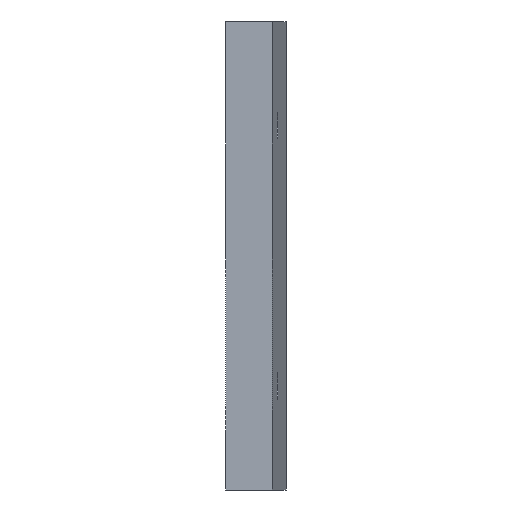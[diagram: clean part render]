
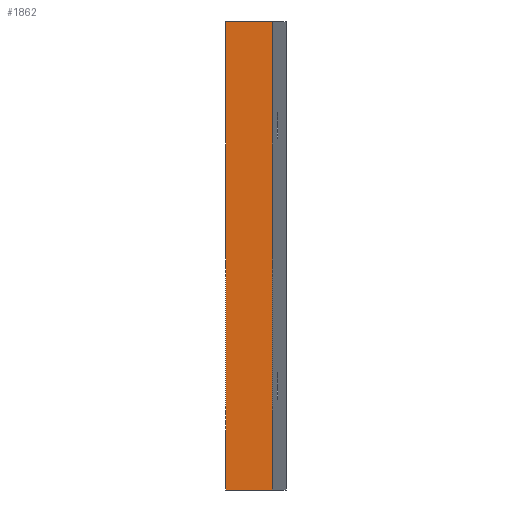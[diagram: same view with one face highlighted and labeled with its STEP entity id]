
A CAD part, left-side view. The second image highlights one B-rep face of the part: STEP entity #1862.
In plain terms, the highlighted planar face has unit normal (-1, 0, 0).
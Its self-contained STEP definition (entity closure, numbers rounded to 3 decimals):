
#49 = AXIS2_PLACEMENT_3D ( 'NONE', #664, #1381, #1860 ) ;
#88 = LINE ( 'NONE', #1831, #558 ) ;
#165 = VECTOR ( 'NONE', #1347, 1000. ) ;
#295 = LINE ( 'NONE', #748, #1747 ) ;
#308 = VERTEX_POINT ( 'NONE', #1340 ) ;
#507 = LINE ( 'NONE', #922, #165 ) ;
#513 = CARTESIAN_POINT ( 'NONE',  ( -100., 10., 0. ) ) ;
#558 = VECTOR ( 'NONE', #1553, 1000. ) ;
#664 = CARTESIAN_POINT ( 'NONE',  ( -100., 0., 0. ) ) ;
#746 = DIRECTION ( 'NONE',  ( 0., 0., 1. ) ) ;
#748 = CARTESIAN_POINT ( 'NONE',  ( -100., 10., 0. ) ) ;
#779 = ORIENTED_EDGE ( 'NONE', *, *, #1125, .T. ) ;
#819 = EDGE_CURVE ( 'NONE', #1801, #889, #295, .T. ) ;
#889 = VERTEX_POINT ( 'NONE', #513 ) ;
#922 = CARTESIAN_POINT ( 'NONE',  ( -100., 3.056, 0. ) ) ;
#934 = EDGE_CURVE ( 'NONE', #889, #996, #507, .T. ) ;
#996 = VERTEX_POINT ( 'NONE', #1526 ) ;
#1087 = PLANE ( 'NONE',  #49 ) ;
#1110 = EDGE_LOOP ( 'NONE', ( #1781, #1357, #779, #1383 ) ) ;
#1125 = EDGE_CURVE ( 'NONE', #308, #1801, #88, .T. ) ;
#1158 = DIRECTION ( 'NONE',  ( 0., 0., -1. ) ) ;
#1210 = FACE_OUTER_BOUND ( 'NONE', #1110, .T. ) ;
#1229 = CARTESIAN_POINT ( 'NONE',  ( -100., 10., 70. ) ) ;
#1275 = EDGE_CURVE ( 'NONE', #996, #308, #1471, .T. ) ;
#1337 = CARTESIAN_POINT ( 'NONE',  ( -100., 3.056, 0. ) ) ;
#1340 = CARTESIAN_POINT ( 'NONE',  ( -100., 3.056, 70. ) ) ;
#1347 = DIRECTION ( 'NONE',  ( 0., -1., 0. ) ) ;
#1357 = ORIENTED_EDGE ( 'NONE', *, *, #1275, .T. ) ;
#1381 = DIRECTION ( 'NONE',  ( 1., 0., 0. ) ) ;
#1383 = ORIENTED_EDGE ( 'NONE', *, *, #819, .T. ) ;
#1471 = LINE ( 'NONE', #1337, #1871 ) ;
#1526 = CARTESIAN_POINT ( 'NONE',  ( -100., 3.056, 0. ) ) ;
#1553 = DIRECTION ( 'NONE',  ( 0., 1., 0. ) ) ;
#1747 = VECTOR ( 'NONE', #1158, 1000. ) ;
#1781 = ORIENTED_EDGE ( 'NONE', *, *, #934, .T. ) ;
#1801 = VERTEX_POINT ( 'NONE', #1229 ) ;
#1831 = CARTESIAN_POINT ( 'NONE',  ( -100., 3.056, 70. ) ) ;
#1860 = DIRECTION ( 'NONE',  ( 0., 0., -1. ) ) ;
#1862 = ADVANCED_FACE ( 'NONE', ( #1210 ), #1087, .F. ) ;
#1871 = VECTOR ( 'NONE', #746, 1000. ) ;
